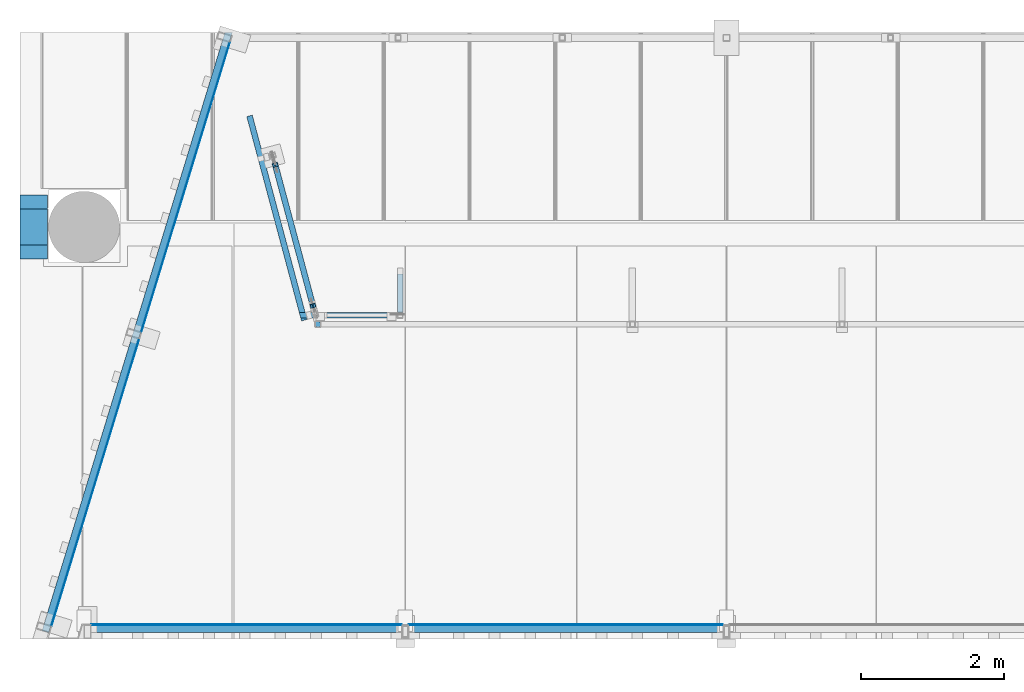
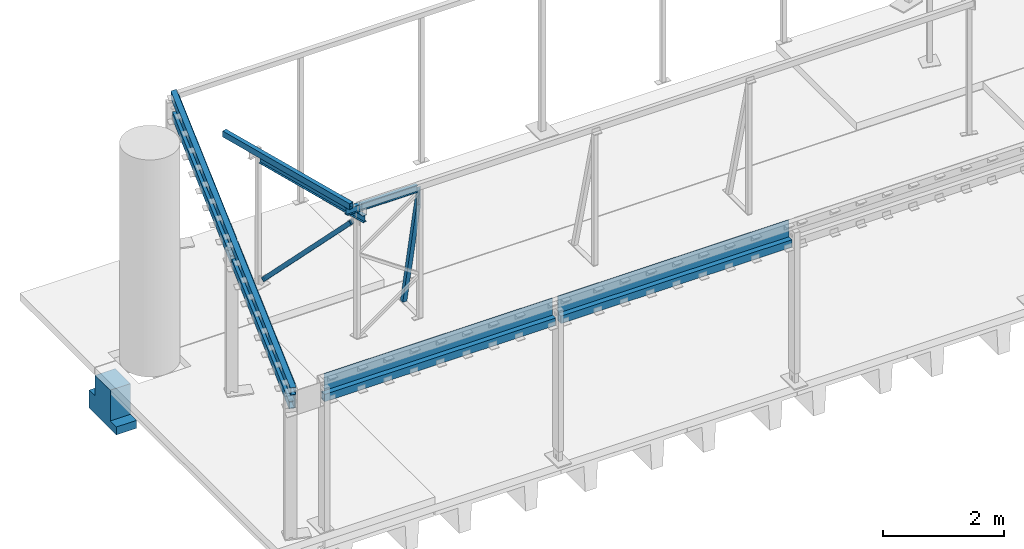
# One storey, part 10 of 19: 13 beams, 4 columns, 2 members.
"""IFC2X3 building model written with IfcOpenShell, lengths in millimetres."""

from ifc_helpers import new_model, entity, si_unit, converted_unit, derived_unit, direction, frame, origin_with_axes, place, context, subcontext, project, spatial, faceted_brep, material, type_object, element, save


model = new_model("IFC2X3")

# Units and contexts
model_context = context("Model", 3, precision=0.01, world=frame((0.0, 4.29681676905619e-09, 0.0)), true_north=direction((4.01073788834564e-13, 1.0)))
plan_context = context("Plan", 3, precision=0.01, world=frame((0.0, 4.29681676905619e-09, 0.0)), true_north=direction((4.01073788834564e-13, 1.0)))
body_context = subcontext(model_context, "Body", "Model", "MODEL_VIEW")
ifc_project = project(units=[converted_unit("PLANEANGLEUNIT", "DEGREE", entity("IfcPositiveLengthMeasure", 0.0174532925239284), si_unit("PLANEANGLEUNIT", "RADIAN"), dimensions=[0, 0, 0, 0, 0, 0, 0]), si_unit("AREAUNIT", "SQUARE_METRE"), si_unit("LENGTHUNIT", "METRE", prefix="MILLI"), si_unit("MASSUNIT", "GRAM", prefix="KILO"), si_unit("POWERUNIT", "WATT"), si_unit("PRESSUREUNIT", "PASCAL", prefix="KILO"), si_unit("FORCEUNIT", "NEWTON", prefix="KILO"), si_unit("ELECTRICVOLTAGEUNIT", "VOLT"), si_unit("ELECTRICCURRENTUNIT", "AMPERE"), si_unit("THERMODYNAMICTEMPERATUREUNIT", "DEGREE_CELSIUS"), si_unit("TIMEUNIT", "SECOND"), si_unit("VOLUMEUNIT", "CUBIC_METRE"), derived_unit("LINEARVELOCITYUNIT", [(si_unit("LENGTHUNIT", "METRE"), 1), (si_unit("TIMEUNIT", "SECOND"), -1)]), derived_unit("VOLUMETRICFLOWRATEUNIT", [(si_unit("VOLUMEUNIT", "CUBIC_METRE"), 1), (si_unit("TIMEUNIT", "SECOND"), -1)]), derived_unit("THERMALTRANSMITTANCEUNIT", [(si_unit("POWERUNIT", "WATT"), 1), (si_unit("THERMODYNAMICTEMPERATUREUNIT", "KELVIN"), -1), (si_unit("AREAUNIT", "SQUARE_METRE"), -1)]), derived_unit("SOUNDPRESSUREUNIT", [(si_unit("PRESSUREUNIT", "PASCAL"), 1)])], contexts=[model_context, plan_context])

# Site, building, storey
site_placement = place(None, frame((0.0, -4.29681676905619e-09, 0.0), z_axis=(0.0, 0.0, 1.0), x_axis=(1.0, 0.0, 0.0)))
site = spatial("IfcSite", under=ifc_project, at=site_placement, Name="Gardermoen", CompositionType="ELEMENT")
building_placement = place(site_placement, frame((0.0, 4.29681676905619e-09, 0.0), z_axis=(0.0, 0.0, 1.0), x_axis=(1.0, 0.0, 0.0)))
building = spatial("IfcBuilding", under=site, at=building_placement, Name="TI", CompositionType="ELEMENT")
storey_placement = place(building_placement, origin_with_axes())
storey = spatial("IfcBuildingStorey", under=building, at=storey_placement, Name="F", CompositionType="ELEMENT", Elevation=0.0)

# Columns
ifc_material_1 = material(Name="STEEL/S355")
column_type = type_object("IfcColumnType", Name="PL5*31", PredefinedType="NOTDEFINED")
for number, where, z_axis, x_axis in (
    (1, (586248.248926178, 574380.340467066, 213127.470975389), (-0.188021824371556, 0.701719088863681, 0.687195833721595), (-0.965927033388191, -0.258814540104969, -3.78000430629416e-07)),
    (2, (586208.645908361, 574369.729068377, 213127.470959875), (-0.188021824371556, 0.701719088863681, 0.687195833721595), (-0.965927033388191, -0.258814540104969, -3.78000430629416e-07)),
    (3, (585706.114775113, 576403.655289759, 211017.759445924), (0.18802124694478, -0.701719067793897, -0.687196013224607), (-0.965927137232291, -0.258814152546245, 1.53726374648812e-09)),
    (4, (585666.511764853, 576393.04390076, 211017.759437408), (0.18802124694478, -0.701719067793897, -0.687196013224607), (-0.965927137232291, -0.258814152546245, 1.53726374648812e-09)),
):
    element("IfcColumn", number, at=place(storey_placement, frame(where, z_axis=z_axis, x_axis=x_axis)), inside=storey, type_object=column_type, material=ifc_material_1, Name="STÅLSØYLE", ObjectType="PL5*31", context=body_context, shape_type="Brep", body=[
        faceted_brep([(0.0, -2.5, 0.0), (-4.07453626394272e-10, -2.50000000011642, 72.0000000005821), (-4.07453626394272e-10, 2.5, 72.0000000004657), (0.0, 2.5, 0.0), (31.0000000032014, -2.50000000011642, 72.0000000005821), (31.0000000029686, 2.5, 72.0000000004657), (31.000000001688, -2.49999999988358, -6.98491930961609e-10), (31.000000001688, 2.50000000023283, -8.14907252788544e-10)], [[[0, 1, 2, 3]], [[1, 4, 5, 2]], [[4, 6, 7, 5]], [[6, 0, 3, 7]], [[5, 7, 3, 2]], [[6, 4, 1, 0]]]),
    ])

# Beams
beam_type_1 = type_object("IfcBeamType", Name="IPE140", PredefinedType="NOTDEFINED")
beam_1_placement = place(storey_placement, frame((586024.683126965, 574264.263174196, 213507.999618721), z_axis=(0.0, 0.0, 1.0), x_axis=(0.999999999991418, -4.14300011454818e-06, 0.0)))
element("IfcBeam", 5, at=beam_1_placement, inside=storey, type_object=beam_type_1, material=ifc_material_1, Name="STÅLBJELKE", ObjectType="IPE140", context=body_context, shape_type="Brep", body=[
    faceted_brep([(-9.78403044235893, 36.5000000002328, -69.9999999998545), (-9.78402928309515, 36.5000000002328, -63.0999999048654), (1353.22661838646, 36.5000000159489, -63.0999999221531), (1353.22661722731, 36.5000000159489, -70.0000000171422), (-0.633450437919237, 2.34999990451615, -63.0999999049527), (1353.22675986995, 2.34999992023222, -63.099999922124), (-0.633429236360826, 2.34999990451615, 63.09999990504), (1353.22678107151, 2.34999992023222, 63.0999998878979), (-9.78400808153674, 36.5000000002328, 63.0999999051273), (1353.22663958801, 36.5000000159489, 63.0999998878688), (-9.78400692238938, 36.5000000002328, 70.0000000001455), (1353.22664074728, 36.5000000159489, 69.9999999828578), (9.77652759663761, -36.5000000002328, 69.9999999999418), (1353.22694318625, -36.4999999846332, 69.9999999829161), (9.77652643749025, -36.5000000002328, 63.0999999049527), (1353.22694202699, -36.4999999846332, 63.099999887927), (0.625947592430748, -2.34999990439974, 63.09999990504), (1353.22680054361, -2.34999988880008, 63.0999998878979), (0.625926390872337, -2.34999990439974, -63.0999999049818), (1353.22677934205, -2.34999988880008, -63.099999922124), (9.77650523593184, -36.5000000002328, -63.0999999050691), (1353.22692082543, -36.4999999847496, -63.0999999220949), (9.77650407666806, -36.5000000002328, -70.0000000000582), (1353.22691966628, -36.4999999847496, -70.0000000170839)], [[[0, 1, 2, 3]], [[1, 4, 5, 2]], [[4, 6, 7, 5]], [[6, 8, 9, 7]], [[8, 10, 11, 9]], [[10, 12, 13, 11]], [[12, 14, 15, 13]], [[14, 16, 17, 15]], [[16, 18, 19, 17]], [[18, 20, 21, 19]], [[20, 22, 23, 21]], [[22, 0, 3, 23]], [[5, 7, 9, 11, 13, 15, 17, 19, 21, 23, 3, 2]], [[22, 20, 18, 16, 14, 12, 10, 8, 6, 4, 1, 0]]]),
])
beam_2_placement = place(storey_placement, frame((585652.77190816, 576463.650338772, 213367.999732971), z_axis=(0.0, 0.0, 1.0), x_axis=(0.258817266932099, -0.965926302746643, 0.0)))
element("IfcBeam", 6, at=beam_2_placement, inside=storey, type_object=beam_type_1, material=ifc_material_1, Name="STÅLBJELKE", ObjectType="IPE140", context=body_context, shape_type="Brep", body=[
    faceted_brep([(9.99839726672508, 36.4999999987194, -70.0), (9.99839726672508, 36.4999999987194, -63.0999999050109), (2448.9735187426, 36.4999999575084, -63.0999999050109), (2448.9735187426, 36.4999999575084, -70.0), (9.99870110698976, 2.34999990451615, -63.0999999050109), (2448.97351874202, 2.34999986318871, -63.0999999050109), (9.99870110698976, 2.34999990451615, 63.0999999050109), (2448.97351874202, 2.34999986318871, 63.0999999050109), (9.99839726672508, 36.4999999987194, 63.0999999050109), (2448.9735187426, 36.4999999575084, 63.0999999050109), (9.99839726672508, 36.4999999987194, 70.0), (2448.9735187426, 36.4999999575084, 70.0), (9.99904676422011, -36.4999999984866, 70.0), (2448.97351874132, -36.5000000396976, 70.0), (9.99904676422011, -36.4999999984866, 63.0999999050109), (2448.97351874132, -36.5000000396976, 63.0999999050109), (9.99874292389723, -2.34999990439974, 63.0999999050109), (2448.97351874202, -2.34999994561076, 63.0999999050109), (9.99874292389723, -2.34999990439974, -63.0999999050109), (2448.97351874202, -2.34999994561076, -63.0999999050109), (9.99904676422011, -36.4999999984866, -63.0999999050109), (2448.97351874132, -36.5000000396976, -63.0999999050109), (9.99904676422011, -36.4999999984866, -70.0), (2448.97351874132, -36.5000000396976, -70.0)], [[[0, 1, 2, 3]], [[1, 4, 5, 2]], [[4, 6, 7, 5]], [[6, 8, 9, 7]], [[8, 10, 11, 9]], [[10, 12, 13, 11]], [[12, 14, 15, 13]], [[14, 16, 17, 15]], [[16, 18, 19, 17]], [[18, 20, 21, 19]], [[20, 22, 23, 21]], [[22, 0, 3, 23]], [[5, 7, 9, 11, 13, 15, 17, 19, 21, 23, 3, 2]], [[22, 20, 18, 16, 14, 12, 10, 8, 6, 4, 1, 0]]]),
])
beam_type_2 = type_object("IfcBeamType", Name="RHS150*100*8", PredefinedType="NOTDEFINED")
for number, where, z_axis, x_axis in (
    (7, (587449.999968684, 569869.999958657, 213479.999618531), (0.0, 0.0, 1.0), (-0.999999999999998, 5.80000057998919e-08, 0.0)),
    (8, (591949.99998736, 569869.999958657, 213479.999618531), (0.0, 0.0, 1.0), (-0.999999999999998, 5.80000057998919e-08, 0.0)),
):
    element("IfcBeam", number, at=place(storey_placement, frame(where, z_axis=z_axis, x_axis=x_axis)), inside=storey, type_object=beam_type_2, material=ifc_material_1, Name="STÅLBJELKE", ObjectType="RHS150*100*8", context=body_context, shape_type="Brep", body=[
        faceted_brep([(-1.86264514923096e-09, 42.0000000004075, -67.0), (1.62981450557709e-09, -42.000000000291, -67.0), (4399.99994412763, -41.9999998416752, -67.0000000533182), (4399.9999441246, 42.0000001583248, -67.0000000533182), (1.62981450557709e-09, -42.000000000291, 67.0), (4399.9999441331, -41.9999998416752, 66.9999999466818), (-1.86264514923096e-09, 42.0000000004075, 67.0), (4399.99994413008, 42.0000001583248, 66.9999999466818), (0.0, 50.0, -75.0), (0.0, 50.0, 75.0), (4399.99994413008, 50.0000001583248, 74.9999999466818), (4399.99994412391, 50.0000001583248, -75.0000000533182), (0.0, -50.0, 75.0), (4399.99994413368, -49.9999998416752, 74.9999999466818), (0.0, -50.0, -75.0), (4399.99994412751, -49.9999998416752, -75.0000000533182)], [[[0, 1, 2, 3]], [[1, 4, 5, 2]], [[4, 6, 7, 5]], [[6, 0, 3, 7]], [[8, 9, 10, 11]], [[9, 12, 13, 10]], [[12, 14, 15, 13]], [[14, 8, 11, 15]], [[13, 15, 11, 10], [5, 7, 3, 2]], [[14, 12, 9, 8], [6, 4, 1, 0]]]),
    ])
beam_3_placement = place(storey_placement, frame((583717.472564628, 573947.177100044, 213480.000686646), z_axis=(0.0, 0.0, 1.0), x_axis=(-0.292371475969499, -0.956304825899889, 0.0)))
element("IfcBeam", 9, at=beam_3_placement, inside=storey, type_object=beam_type_2, material=ifc_material_1, Name="STÅLBJELKE", ObjectType="RHS150*100*8", context=body_context, shape_type="Brep", body=[
    faceted_brep([(-1.86264514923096e-09, 42.0000000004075, -67.0), (1.62981450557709e-09, -42.000000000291, -67.0), (4204.99962718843, -42.0000000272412, -67.0), (4204.99962718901, 41.9999999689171, -67.0), (1.62981450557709e-09, -42.000000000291, 67.0), (4204.99962718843, -42.0000000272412, 67.0), (-1.86264514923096e-09, 42.0000000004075, 67.0), (4204.99962718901, 41.9999999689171, 67.0), (0.0, 50.0, -75.0), (0.0, 50.0, 75.0), (4204.99962718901, 49.9999999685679, 75.0), (4204.99962718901, 49.9999999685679, -75.0), (0.0, -50.0, 75.0), (4204.99962718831, -50.0000000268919, 75.0), (0.0, -50.0, -75.0), (4204.99962718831, -50.0000000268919, -75.0)], [[[0, 1, 2, 3]], [[1, 4, 5, 2]], [[4, 6, 7, 5]], [[6, 0, 3, 7]], [[8, 9, 10, 11]], [[9, 12, 13, 10]], [[12, 14, 15, 13]], [[14, 8, 11, 15]], [[13, 15, 11, 10], [5, 7, 3, 2]], [[14, 12, 9, 8], [6, 4, 1, 0]]]),
])
beam_4_placement = place(storey_placement, frame((584987.827632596, 578102.321296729, 213480.000686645), z_axis=(0.0, 0.0, 1.0), x_axis=(-0.292371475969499, -0.956304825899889, 0.0)))
element("IfcBeam", 10, at=beam_4_placement, inside=storey, type_object=beam_type_2, material=ifc_material_1, Name="STÅLBJELKE", ObjectType="RHS150*100*8", context=body_context, shape_type="Brep", body=[
    faceted_brep([(-1.86264514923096e-09, 42.0000000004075, -67.0), (1.62981450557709e-09, -42.000000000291, -67.0), (4244.99999992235, -41.999999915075, -67.0), (4244.99999992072, 42.0000000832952, -67.0), (1.62981450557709e-09, -42.000000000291, 67.0), (4244.99999992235, -41.999999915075, 67.0), (-1.86264514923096e-09, 42.0000000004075, 67.0), (4244.99999992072, 42.0000000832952, 67.0), (0.0, 50.0, -75.0), (0.0, 50.0, 75.0), (4244.9999999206, 50.0000000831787, 75.0), (4244.9999999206, 50.0000000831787, -75.0), (0.0, -50.0, 75.0), (4244.99999992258, -49.9999999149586, 75.0), (0.0, -50.0, -75.0), (4244.99999992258, -49.9999999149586, -75.0)], [[[0, 1, 2, 3]], [[1, 4, 5, 2]], [[4, 6, 7, 5]], [[6, 0, 3, 7]], [[8, 9, 10, 11]], [[9, 12, 13, 10]], [[12, 14, 15, 13]], [[14, 8, 11, 15]], [[13, 15, 11, 10], [5, 7, 3, 2]], [[14, 12, 9, 8], [6, 4, 1, 0]]]),
])
beam_5_placement = place(storey_placement, frame((587736.064706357, 587091.414294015, 213820.000686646), z_axis=(0.0, 0.0, 1.0), x_axis=(-0.292371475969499, -0.956304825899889, 0.0)))
element("IfcBeam", 11, at=beam_5_placement, inside=storey, type_object=beam_type_2, Name="STÅLBJELKE", ObjectType="RHS150*100*8", context=body_context, shape_type="Brep", body=[
    faceted_brep([(9281.76210716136, -41.9999997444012, -67.0), (9256.08075188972, 42.0000002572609, -67.0), (18049.819155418, 42.0000005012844, -67.0), (18049.8191554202, -41.9999995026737, -67.0), (9281.76210716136, -41.9999997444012, 67.0), (18049.8191554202, -41.9999995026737, 67.0), (9256.08075188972, 42.0000002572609, 67.0), (18049.819155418, 42.0000005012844, 67.0), (9253.63490853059, 50.0000002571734, 75.0), (9253.63490853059, 50.0000002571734, -75.0), (18049.8191554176, 50.0000005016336, -75.0), (18049.8191554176, 50.0000005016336, 75.0), (9284.20795052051, -49.9999997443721, 75.0), (18049.8191554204, -49.999999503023, 75.0), (9284.20795052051, -49.9999997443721, -75.0), (18049.8191554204, -49.999999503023, -75.0)], [[[0, 1, 2, 3]], [[4, 0, 3, 5]], [[6, 4, 5, 7]], [[1, 6, 7, 2]], [[8, 9, 10, 11]], [[12, 8, 11, 13]], [[14, 12, 13, 15]], [[9, 14, 15, 10]], [[11, 10, 15, 13], [3, 2, 7, 5]], [[12, 14, 9, 8], [4, 6, 1, 0]]], orient=[[False], [False], [False], [False], [False], [False], [False], [False], [False, False], [False, False]]),
])
beam_type_3 = type_object("IfcBeamType", Name="PL10*490", PredefinedType="NOTDEFINED")
beam_6_placement = place(storey_placement, frame((587449.999927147, 569924.999958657, 213649.999618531), z_axis=(0.0, 0.0, 1.0), x_axis=(-0.999999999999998, 5.80000057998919e-08, 0.0)))
element("IfcBeam", 12, at=beam_6_placement, inside=storey, type_object=beam_type_3, material=ifc_material_1, Name="STÅLBJELKE", ObjectType="PL10*490", context=body_context, shape_type="Brep", body=[
    faceted_brep([(0.0, 5.0, -245.0), (0.0, 5.0, 245.0), (4349.99994413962, 4.99999994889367, 244.999999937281), (4349.99994413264, 4.99999994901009, -245.000000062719), (0.0, -5.0, 245.0), (4349.9999441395, -5.00000005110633, 244.999999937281), (0.0, -5.0, -245.0), (4349.99994413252, -5.00000005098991, -245.000000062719)], [[[0, 1, 2, 3]], [[1, 4, 5, 2]], [[4, 6, 7, 5]], [[6, 0, 3, 7]], [[5, 7, 3, 2]], [[6, 4, 1, 0]]]),
])
beam_7_placement = place(storey_placement, frame((591949.99998736, 569924.999958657, 213649.999618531), z_axis=(0.0, 0.0, 1.0), x_axis=(-0.999999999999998, 5.80000057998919e-08, 0.0)))
element("IfcBeam", 13, at=beam_7_placement, inside=storey, type_object=beam_type_3, material=ifc_material_1, Name="STÅLBJELKE", ObjectType="PL10*490", context=body_context, shape_type="Brep", body=[
    faceted_brep([(0.0, 5.0, -245.0), (0.0, 5.0, 245.0), (4399.99999999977, 5.0, 245.0), (4399.99999999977, 5.0, -245.0), (0.0, -5.0, 245.0), (4399.99999999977, -5.0, 245.0), (0.0, -5.0, -245.0), (4399.99999999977, -5.0, -245.0)], [[[0, 1, 2, 3]], [[1, 4, 5, 2]], [[4, 6, 7, 5]], [[6, 0, 3, 7]], [[5, 7, 3, 2]], [[6, 4, 1, 0]]]),
])
beam_8_placement = place(storey_placement, frame((583799.30345903, 574026.730881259, 213650.000686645), z_axis=(0.0, 0.0, 1.0), x_axis=(0.292371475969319, 0.956304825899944, 0.0)))
element("IfcBeam", 14, at=beam_8_placement, inside=storey, type_object=beam_type_3, material=ifc_material_1, Name="STÅLBJELKE", ObjectType="PL10*490", context=body_context, shape_type="Brep", body=[
    faceted_brep([(0.0, 5.0, -245.0), (0.0, 5.0, 245.0), (4244.99999992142, 5.00000008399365, 245.0), (4244.99999992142, 5.00000008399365, -245.0), (0.0, -5.0, 245.0), (4244.99999992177, -4.99999991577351, 245.0), (0.0, -5.0, -245.0), (4244.99999992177, -4.99999991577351, -245.0)], [[[0, 1, 2, 3]], [[1, 4, 5, 2]], [[4, 6, 7, 5]], [[6, 0, 3, 7]], [[5, 7, 3, 2]], [[6, 4, 1, 0]]]),
])
beam_9_placement = place(storey_placement, frame((582540.643269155, 569909.838907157, 213650.000686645), z_axis=(0.0, 0.0, 1.0), x_axis=(0.292371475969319, 0.956304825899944, 0.0)))
element("IfcBeam", 15, at=beam_9_placement, inside=storey, type_object=beam_type_3, material=ifc_material_1, Name="STÅLBJELKE", ObjectType="PL10*490", context=body_context, shape_type="Brep", body=[
    faceted_brep([(0.0, 5.0, -245.0), (0.0, 5.0, 245.0), (4204.99999992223, 5.00000008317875, 245.0), (4204.99999992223, 5.00000008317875, -245.0), (0.0, -5.0, 245.0), (4204.99999992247, -4.99999991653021, 245.0), (0.0, -5.0, -245.0), (4204.99999992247, -4.99999991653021, -245.0)], [[[0, 1, 2, 3]], [[1, 4, 5, 2]], [[4, 6, 7, 5]], [[6, 0, 3, 7]], [[5, 7, 3, 2]], [[6, 4, 1, 0]]]),
])
beam_type_4 = type_object("IfcBeamType", Name="RHS120*80*6.3", PredefinedType="NOTDEFINED")
beam_10_placement = place(storey_placement, frame((585317.788988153, 577056.858518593, 213637.999732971), z_axis=(0.0, 0.0, 1.0), x_axis=(0.25882774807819, -0.965923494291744, 0.0)))
element("IfcBeam", 16, at=beam_10_placement, inside=storey, type_object=beam_type_4, material=ifc_material_1, Name="STÅLBJELKE", ObjectType="RHS120*80*6.3", context=body_context, shape_type="Brep", body=[
    faceted_brep([(-1.51339918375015e-09, 33.6999998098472, -53.6999998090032), (1.28056854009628e-09, -33.69999981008, -53.6999998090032), (2964.37646101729, -33.699999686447, -53.6999998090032), (2964.3764610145, 33.6999999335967, -53.6999998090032), (1.28056854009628e-09, -33.69999981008, 53.6999998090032), (2964.37646101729, -33.699999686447, 53.6999998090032), (-1.51339918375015e-09, 33.6999998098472, 53.6999998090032), (2964.3764610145, 33.6999999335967, 53.6999998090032), (0.0, 40.0, -60.0), (0.0, 40.0, 60.0), (2964.37646101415, 40.0000001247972, 60.0), (2964.37646101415, 40.0000001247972, -60.0), (-1.62981450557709e-09, -40.0, 60.0), (2964.37646101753, -39.9999998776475, 60.0), (0.0, -40.0, -60.0), (2964.37646101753, -39.9999998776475, -60.0)], [[[0, 1, 2, 3]], [[1, 4, 5, 2]], [[4, 6, 7, 5]], [[6, 0, 3, 7]], [[8, 9, 10, 11]], [[9, 12, 13, 10]], [[12, 14, 15, 13]], [[14, 8, 11, 15]], [[13, 15, 11, 10], [5, 7, 3, 2]], [[14, 12, 9, 8], [6, 4, 1, 0]]]),
])
beam_type_5 = type_object("IfcBeamType", Name="DLB500*1500-900*1235*880", PredefinedType="NOTDEFINED")
beam_11_placement = place(storey_placement, frame((582485.017443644, 575500.001007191, 209930.0), z_axis=(0.0, 0.0, 1.0), x_axis=(-0.999999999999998, 5.80000057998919e-08, 0.0)))
element("IfcBeam", 17, at=beam_11_placement, inside=storey, type_object=beam_type_5, Name="PREFABBJELKE", ObjectType="DLB500*1500-900*1235*880", context=body_context, shape_type="Brep", body=[
    faceted_brep([(383.2977439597, -250.0000000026, 485.0), (383.2977439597, -249.999150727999, 330.0), (-1.74622982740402e-09, -249.998992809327, 330.0), (-1.74622982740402e-09, -250.000000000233, 485.0), (383.2977439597, -250.0000000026, 750.0), (-1.74622982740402e-09, -250.000000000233, 750.0), (383.297743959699, -450.000000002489, 330.0), (-3.02679836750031e-09, -450.000000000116, 330.0), (383.297743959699, -450.000000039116, -30.0), (-3.02679836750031e-09, -450.000000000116, -30.0), (2.56113708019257e-09, 449.999999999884, -29.9999999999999), (2.56113708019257e-09, 449.999999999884, 130.0), (1.39698386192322e-09, 249.999999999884, 130.0), (1.39698386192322e-09, 249.999999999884, 750.0), (383.2977439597, 249.999999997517, 750.0), (383.2977439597, 249.999999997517, 130.0), (383.2977439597, 449.999999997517, 130.0), (383.297743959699, 449.999999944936, -30.0), (383.297683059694, 449.999999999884, -29.9999999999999), (383.297735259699, -450.000000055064, -30.0)], [[[0, 1, 2, 3]], [[4, 0, 3, 5]], [[1, 6, 7, 2]], [[6, 8, 9, 7]], [[9, 10, 11, 12, 13, 5, 2, 7]], [[14, 4, 5, 13]], [[15, 14, 13, 12]], [[16, 15, 12, 11]], [[10, 17, 16, 11]], [[8, 6, 1, 4, 14, 15, 16, 17]], [[18, 10, 9, 19]]], orient=[[False], [False], [False], [False], [False], [False], [False], [False], [False], [False], [False]]),
])

# Members
ifc_material_2 = material(Name="STEEL/S355J2H")
member_type = type_object("IfcMemberType", Name="RHS80*6.3", PredefinedType="NOTDEFINED")
member_1_placement = place(storey_placement, frame((585632.644989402, 576538.756237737, 210807.314589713), z_axis=(-0.188021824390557, 0.701719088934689, 0.687195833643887), x_axis=(0.177856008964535, -0.663781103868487, 0.726472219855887)))
element("IfcMember", 18, at=member_1_placement, inside=storey, type_object=member_type, material=ifc_material_2, Name="STÅLDIAGONAL", ObjectType="RHS80*6.3", context=body_context, shape_type="Brep", body=[
    faceted_brep([(3225.23362266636, 4.99994583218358, 39.9999999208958), (3125.23362271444, 4.99994583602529, 39.9999999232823), (3125.23362271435, 4.99994930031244, 33.699999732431), (3225.23362266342, 4.99994929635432, 33.6999997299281), (3125.23362271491, -5.00005416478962, 39.9999999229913), (3125.23362271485, -5.00005070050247, 33.69999973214), (3225.23362268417, -5.00005416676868, 39.9999999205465), (3225.23362268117, -5.00005070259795, 33.6999997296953), (3225.23362263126, 4.99998635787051, -33.6999998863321), (3125.23362271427, 4.99998636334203, -33.6999998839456), (3125.23362271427, 4.99998982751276, -40.0000000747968), (3225.23362262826, 4.99998982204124, -40.0000000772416), (3125.23362271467, -5.00001363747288, -33.6999998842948), (3125.23362271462, -5.00001017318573, -40.0000000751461), (3225.23362264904, -5.00001364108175, -33.6999998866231), (3225.23362264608, -5.00001017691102, -40.0000000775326), (258.126841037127, 33.6999997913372, 33.6999998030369), (258.126841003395, 33.6999997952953, -33.6999998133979), (3225.23362258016, 33.6999996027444, -33.699999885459), (3225.23362261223, 33.6999995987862, 33.6999997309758), (3225.23362273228, -33.700000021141, 33.6999997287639), (258.126841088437, -33.6999998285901, 33.6999998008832), (258.12684106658, -4.99957694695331, 33.6999998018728), (358.126841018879, -4.9995769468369, 33.699999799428), (358.126841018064, 5.00042305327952, 33.6999997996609), (258.126841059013, 5.00042305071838, 33.6999998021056), (258.126841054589, -33.699999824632, -33.6999998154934), (3225.23362270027, -33.7000000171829, -33.6999998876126), (258.126841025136, 5.00044343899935, -33.6999998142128), (358.126841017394, 5.00044343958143, -33.6999998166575), (358.12684101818, -4.9995565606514, -33.6999998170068), (258.126841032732, -4.99955655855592, -33.699999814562), (258.12684102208, 5.00044534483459, -40.0000000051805), (358.126841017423, 5.00044534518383, -40.0000000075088), (358.126841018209, -4.99955465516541, -40.000000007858), (258.12684102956, -4.99955465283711, -40.0000000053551), (258.126841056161, -40.0000000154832, -40.0000000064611), (258.126841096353, -40.0000000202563, 39.9999999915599), (258.126841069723, -4.99957885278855, 39.9999999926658), (358.12684101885, -4.99957885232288, 39.9999999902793), (358.126841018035, 5.00042114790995, 39.9999999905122), (258.126841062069, 5.00042114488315, 39.9999999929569), (258.126841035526, 39.999999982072, 39.999999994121), (258.126840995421, 39.9999999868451, -40.0000000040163), (3225.23362260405, 39.9999997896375, 39.9999999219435), (3225.23362256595, 39.9999997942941, -40.0000000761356), (3225.23362270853, -40.0000002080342, -40.0000000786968), (3225.23362274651, -40.0000002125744, 39.9999999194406)], [[[0, 1, 2, 3]], [[4, 5, 2, 1]], [[6, 7, 5, 4]], [[8, 9, 10, 11]], [[12, 13, 10, 9]], [[14, 15, 13, 12]], [[16, 17, 18, 19]], [[20, 21, 22, 23, 24, 25, 16, 19, 3, 2, 5, 7]], [[26, 21, 20, 27]], [[9, 8, 18, 17, 28, 29, 30, 31, 26, 27, 14, 12]], [[28, 32, 33, 29]], [[29, 33, 34, 30]], [[30, 34, 35, 31]], [[21, 26, 31, 35, 36, 37, 38, 22]], [[39, 23, 22, 38]], [[40, 24, 23, 39]], [[41, 25, 24, 40]], [[42, 43, 32, 28, 17, 16, 25, 41]], [[43, 42, 44, 45]], [[19, 18, 8, 11, 45, 44, 0, 3]], [[46, 36, 35, 34, 33, 32, 43, 45, 11, 10, 13, 15]], [[37, 36, 46, 47]], [[1, 0, 44, 42, 41, 40, 39, 38, 37, 47, 6, 4]], [[47, 46, 15, 14, 27, 20, 7, 6]]]),
])
member_2_placement = place(storey_placement, frame((587427.912092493, 574801.619823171, 210872.344256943), z_axis=(5.48399996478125e-06, 0.979454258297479, 0.201666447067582), x_axis=(-1.12900001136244e-06, -0.201666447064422, 0.979454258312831)))
element("IfcMember", 19, at=member_2_placement, inside=storey, type_object=member_type, material=ifc_material_1, Name="STÅLDIAGONAL", ObjectType="RHS80*6.3", context=body_context, shape_type="Brep", body=[
    faceted_brep([(2660.52768604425, -39.9999999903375, 39.9999999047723), (2660.52723064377, 40.0000000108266, 39.9999999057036), (14.8951163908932, 39.9999999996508, 40.0000000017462), (14.8951163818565, -40.0000000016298, 40.0000000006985), (2271.98342494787, -39.9999999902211, -40.0000000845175), (31.3668562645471, -39.9999999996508, -40.000000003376), (2271.98296954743, 40.000000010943, -40.0000000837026), (31.3668562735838, 40.0000000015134, -40.0000000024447), (2629.92978869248, -33.6999997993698, 33.6999997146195), (2629.92940501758, 33.6999998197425, 33.699999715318), (2302.58086689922, 33.6999998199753, -33.6999998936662), (2302.58125057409, -33.6999997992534, -33.6999998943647), (30.0697067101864, -33.6999998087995, -33.6999998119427), (16.1922659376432, -33.6999998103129, 33.6999998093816), (16.1922659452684, 33.6999998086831, 33.6999998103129), (30.0697067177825, 33.6999998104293, -33.6999998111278)], [[[0, 1, 2, 3]], [[4, 0, 3, 5]], [[6, 4, 5, 7]], [[1, 6, 7, 2]], [[0, 4, 6, 1], [8, 9, 10, 11]], [[8, 11, 12, 13]], [[9, 8, 13, 14]], [[10, 9, 14, 15]], [[11, 10, 15, 12]], [[2, 7, 5, 3], [14, 13, 12, 15]]]),
])

save(model, "model.ifc")
